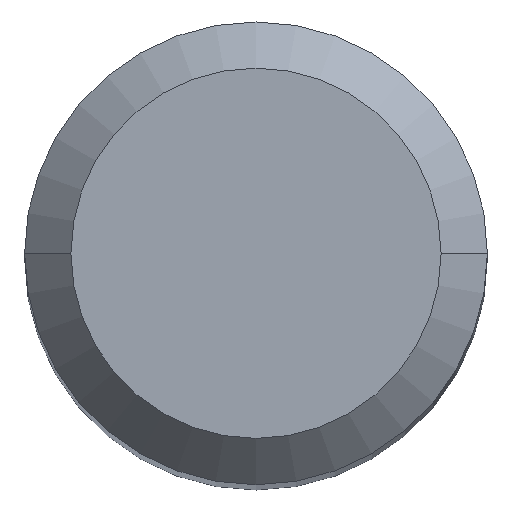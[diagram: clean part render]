
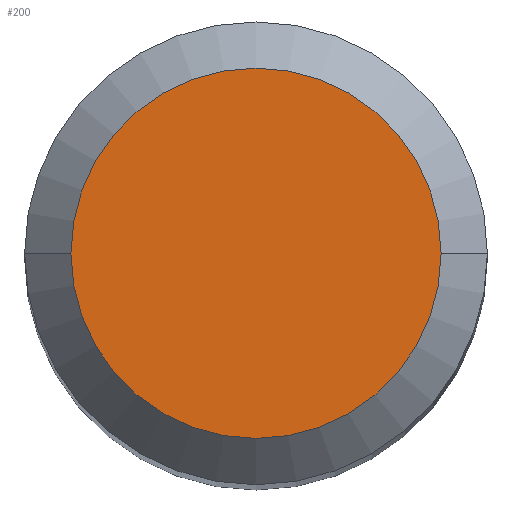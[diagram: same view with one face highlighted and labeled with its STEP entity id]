
A CAD part, top view. The second image highlights one B-rep face of the part: STEP entity #200.
In plain terms, the highlighted planar face has unit normal (0, 0, 1).
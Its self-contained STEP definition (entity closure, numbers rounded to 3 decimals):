
#13 = CARTESIAN_POINT ( 'NONE',  ( 0., 0., 0. ) ) ;
#42 = EDGE_CURVE ( 'NONE', #121, #66, #348, .T. ) ;
#49 = DIRECTION ( 'NONE',  ( 0., 0., -1. ) ) ;
#58 = CARTESIAN_POINT ( 'NONE',  ( -2.4, 0., 0. ) ) ;
#66 = VERTEX_POINT ( 'NONE', #58 ) ;
#96 = AXIS2_PLACEMENT_3D ( 'NONE', #13, #293, #586 ) ;
#121 = VERTEX_POINT ( 'NONE', #394 ) ;
#123 = EDGE_CURVE ( 'NONE', #66, #121, #500, .T. ) ;
#149 = AXIS2_PLACEMENT_3D ( 'NONE', #487, #49, #495 ) ;
#200 = ADVANCED_FACE ( 'NONE', ( #363 ), #552, .T. ) ;
#293 = DIRECTION ( 'NONE',  ( 0., 0., -1. ) ) ;
#348 = CIRCLE ( 'NONE', #149, 2.4 ) ;
#356 = CARTESIAN_POINT ( 'NONE',  ( 0., 2.4, 0. ) ) ;
#363 = FACE_OUTER_BOUND ( 'NONE', #501, .T. ) ;
#392 = AXIS2_PLACEMENT_3D ( 'NONE', #356, #595, #545 ) ;
#394 = CARTESIAN_POINT ( 'NONE',  ( 2.4, 0., 0. ) ) ;
#467 = ORIENTED_EDGE ( 'NONE', *, *, #42, .F. ) ;
#487 = CARTESIAN_POINT ( 'NONE',  ( 0., 0., 0. ) ) ;
#495 = DIRECTION ( 'NONE',  ( -1., 0., 0. ) ) ;
#500 = CIRCLE ( 'NONE', #96, 2.4 ) ;
#501 = EDGE_LOOP ( 'NONE', ( #512, #467 ) ) ;
#512 = ORIENTED_EDGE ( 'NONE', *, *, #123, .F. ) ;
#545 = DIRECTION ( 'NONE',  ( 1., 0., 0. ) ) ;
#552 = PLANE ( 'NONE',  #392 ) ;
#586 = DIRECTION ( 'NONE',  ( -1., 0., 0. ) ) ;
#595 = DIRECTION ( 'NONE',  ( 0., 0., 1. ) ) ;
